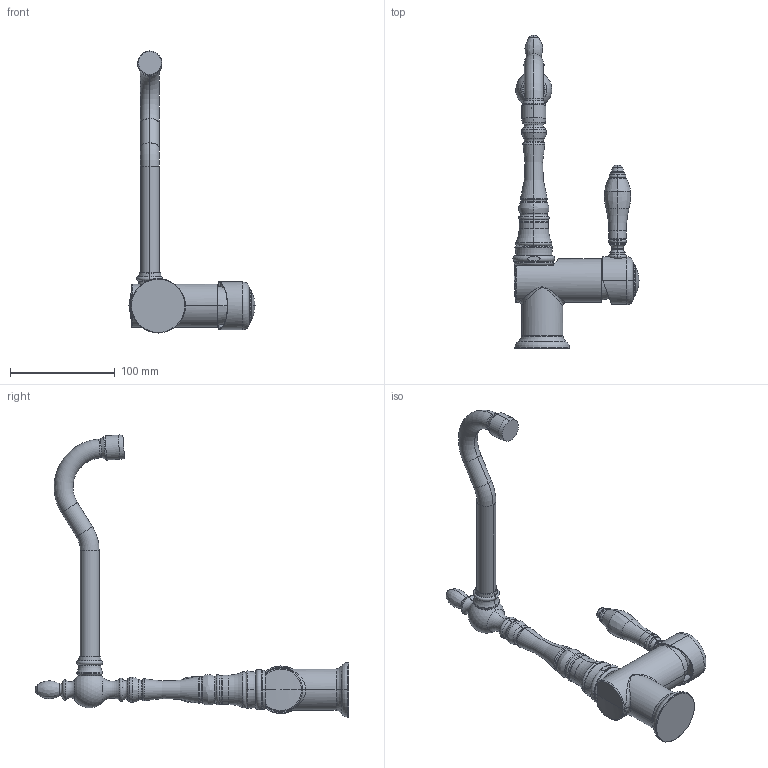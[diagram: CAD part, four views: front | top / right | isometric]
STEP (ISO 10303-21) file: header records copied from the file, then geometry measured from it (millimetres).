
FILE_DESCRIPTION((''),'2;1');
FILE_NAME('F5417_FILE_3D','2013-03-12T',('ivanv'),(''),'PRO/ENGINEER BY PARAMETRIC TECHNOLOGY CORPORATION, 2012130','PRO/ENGINEER BY PARAMETRIC TECHNOLOGY CORPORATION, 2012130','');
FILE_SCHEMA(('CONFIG_CONTROL_DESIGN'));
Length unit declared in the file: millimetre
Products named in the file (1): F5417_FILE_3D
Bounding box: 120.3 x 299.3 x 269.21 mm (x, y, z)
Volume: 268458.9 mm3; surface area: 111158.8 mm2
Topology: 5 solids, 7 shells, 803 faces, 1876 edges, 1122 vertices
Faces by surface type: plane 313, cylinder 168, torus 146, cone 65, bspline 58, sphere 30, extrusion 23
Entity records: 26514 total; most frequent: CARTESIAN_POINT 8234, DIRECTION 3913, ORIENTED_EDGE 3720, EDGE_CURVE 1860, AXIS2_PLACEMENT_3D 1460, VERTEX_POINT 1122, VECTOR 993, LINE 970
